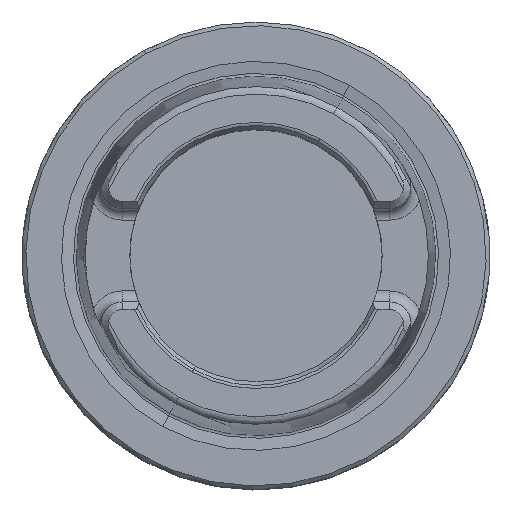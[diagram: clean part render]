
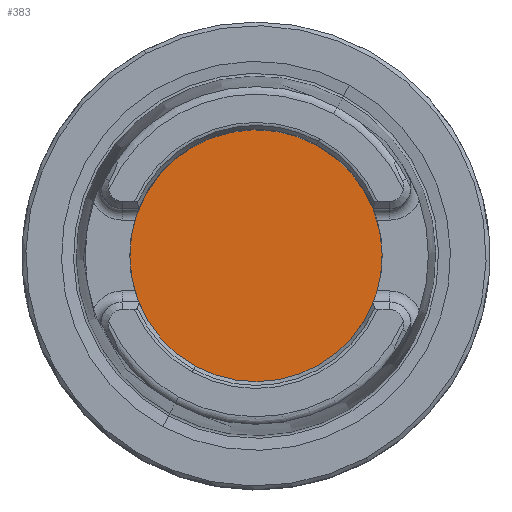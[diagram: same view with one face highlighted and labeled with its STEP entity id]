
A CAD part, top view. The second image highlights one B-rep face of the part: STEP entity #383.
In plain terms, the highlighted planar face has unit normal (0, 0, 1).
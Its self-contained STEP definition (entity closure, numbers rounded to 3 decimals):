
#346=AXIS2_PLACEMENT_3D('Circle Axis2P3D',#344,#345,$) ;
#372=AXIS2_PLACEMENT_3D('Plane Axis2P3D',#369,#370,#371) ;
#376=AXIS2_PLACEMENT_3D('Circle Axis2P3D',#374,#375,$) ;
#341=CARTESIAN_POINT('Vertex',(-8.15,-14.919,-10.)) ;
#344=CARTESIAN_POINT('Axis2P3D Location',(0.,0.,-10.)) ;
#348=CARTESIAN_POINT('Vertex',(8.15,14.919,-10.)) ;
#369=CARTESIAN_POINT('Axis2P3D Location',(0.,-15.75,-10.)) ;
#374=CARTESIAN_POINT('Axis2P3D Location',(0.,0.,-10.)) ;
#345=DIRECTION('Axis2P3D Direction',(0.,0.,-1.)) ;
#370=DIRECTION('Axis2P3D Direction',(0.,0.,-1.)) ;
#371=DIRECTION('Axis2P3D XDirection',(-1.,0.,0.)) ;
#375=DIRECTION('Axis2P3D Direction',(0.,0.,-1.)) ;
#380=ORIENTED_EDGE('',*,*,#350,.T.) ;
#381=ORIENTED_EDGE('',*,*,#378,.T.) ;
#383=ADVANCED_FACE('NO_CUT',(#382),#373,.F.) ;
#347=CIRCLE('generated circle',#346,17.) ;
#377=CIRCLE('generated circle',#376,17.) ;
#350=EDGE_CURVE('',#349,#342,#347,.F.) ;
#378=EDGE_CURVE('',#342,#349,#377,.F.) ;
#379=EDGE_LOOP('',(#380,#381)) ;
#382=FACE_OUTER_BOUND('',#379,.T.) ;
#373=PLANE('',#372) ;
#342=VERTEX_POINT('',#341) ;
#349=VERTEX_POINT('',#348) ;
